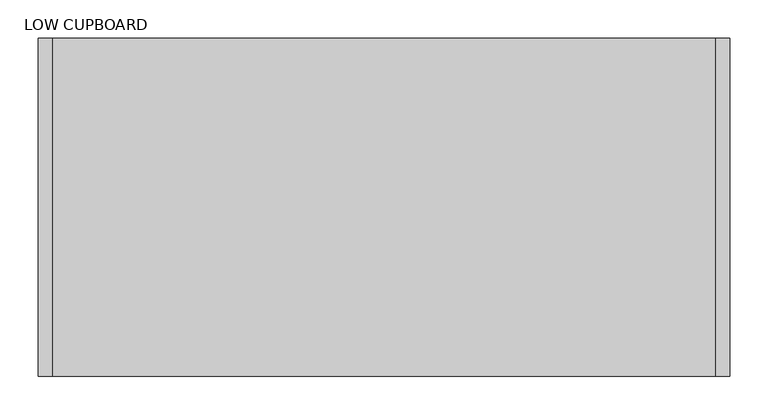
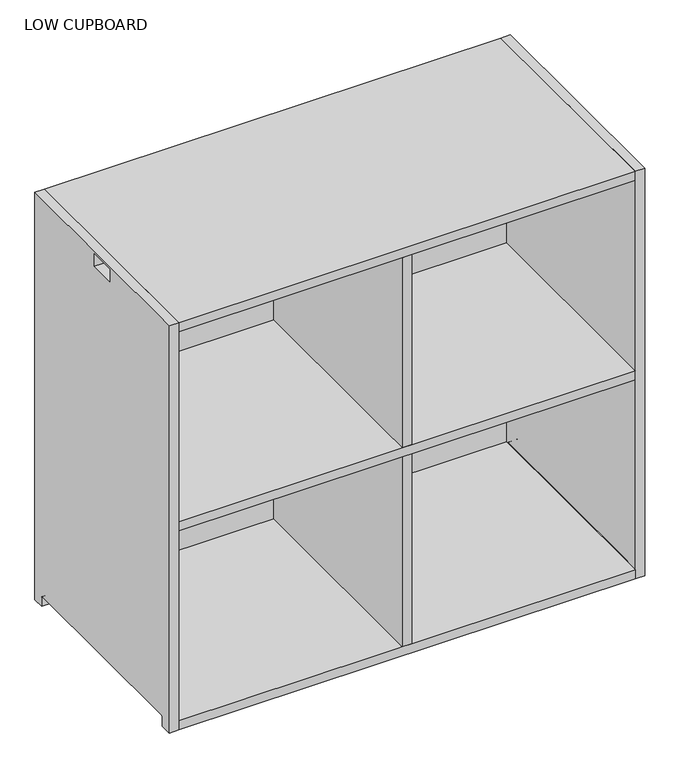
"""IFC4 building model written with IfcOpenShell, lengths in millimetres: furniture geometry, LOW CUPBOARD : 900mmW_SHELVES & DIVIDER."""

from ifc_helpers import new_model, si_unit, point, frame, frame_2d, origin, place, context, project, spatial, polyline, circle_curve, trimmed, segment, composite_curve, outline, extrude, source, transform, mapped, element, save
from ifc_brep_helpers import plane_surface, revolved_surface, advanced_brep


def low_cupboard_ac567b99(model_context):
    return source(origin(), model_context, "Body", "SolidModel", [
        extrude(outline(composite_curve([segment(polyline([(-220.0, 815.0), (220.0, 815.0), (220.0, 0.0), (198.0, 0.0), (198.0, 17.0)]), True, "CONTINUOUS"), segment(trimmed(circle_curve(frame_2d((194.0, 17.0)), 4.0), [point((198.0, 17.0))], [point((194.0, 21.0))], True, "CARTESIAN"), True, "CONTINUOUS"), segment(polyline([(194.0, 21.0), (-194.0, 21.0)]), True, "CONTINUOUS"), segment(trimmed(circle_curve(frame_2d((-194.0, 17.0)), 4.0), [point((-194.0, 21.0))], [point((-198.0, 17.0))], True, "CARTESIAN"), True, "CONTINUOUS"), segment(polyline([(-198.0, 17.0), (-198.0, 0.0), (-220.0, 0.0), (-220.0, 815.0)]), True, "CONTINUOUS")], self_intersect=False), holes=[polyline([(-26.0, 810.0), (-26.0, 785.0), (26.0, 785.0), (26.0, 810.0), (-26.0, 810.0)])]), frame((-450.0, 0.0, 0.0), z_axis=(1.0, 0.0, 0.0), x_axis=(0.0, 1.0, 0.0)), (0.0, 0.0, 1.0), 18.0),
        advanced_brep(
        [(432.0, 220.0, 18.0), (-432.0, 220.0, 18.0), (-432.0, 197.8729833, 18.0), (-426.1019215, 197.8729833, 18.0), (-426.1019215, -197.8729833, 18.0), (-432.0, -197.8729833, 18.0), (-432.0, -220.0, 18.0), (432.0, -220.0, 18.0), (432.0, 220.0, 0.0), (432.0, -220.0, 0.0), (-432.0, -220.0, 0.0), (-432.0, -198.0, 0.0), (-426.1019215, -198.0, 0.0), (-426.1019215, 198.0, 0.0), (-432.0, 198.0, 0.0), (-432.0, 220.0, 0.0), (-432.0, 198.0, 17.0), (-432.0, -198.0, 17.0), (-426.1019215, 198.0, 17.0), (-426.1019215, -198.0, 17.0)],
        [
            (0, 1),
            (1, 2),
            (2, 3),
            (3, 4),
            (4, 5),
            (5, 6),
            (6, 7),
            (7, 0),
            (8, 9),
            (9, 10),
            (10, 11),
            (11, 12),
            (12, 13),
            (13, 14),
            (14, 15),
            (15, 8),
            (0, 8),
            (15, 1),
            (14, 16),
            (16, 2, circle_curve(frame((-432.0, 194.0, 17.0), z_axis=(1.0, 0.0, 0.0), x_axis=(0.0, 1.0, 0.0)), 4.0)),
            (10, 6),
            (5, 17, circle_curve(frame((-432.0, -194.0, 17.0), z_axis=(1.0, 0.0, 0.0), x_axis=(0.0, 1.0, 0.0)), 4.0)),
            (17, 11),
            (9, 7),
            (18, 13),
            (12, 19),
            (19, 4, circle_curve(frame((-426.1019215, -194.0, 17.0), z_axis=(-1.0, 0.0, 0.0), x_axis=(0.0, 1.0, 0.0)), 4.0)),
            (3, 18, circle_curve(frame((-426.1019215, 194.0, 17.0), z_axis=(-1.0, 0.0, 0.0), x_axis=(0.0, 1.0, 0.0)), 4.0)),
            (19, 17),
            (18, 16),
        ],
        [
            plane_surface(frame((-432.0, 220.0, 18.0), z_axis=(0.0, 0.0, 1.0), x_axis=(-1.0, 0.0, 0.0))),
            plane_surface(frame((-432.0, 220.0, 0.0), z_axis=(0.0, 0.0, -1.0), x_axis=(1.0, 0.0, 0.0))),
            plane_surface(frame((432.0, 220.0, 18.0), z_axis=(0.0, 1.0, 0.0), x_axis=(0.0, 0.0, -1.0))),
            plane_surface(frame((-432.0, 220.0, 18.0), z_axis=(-1.0, 0.0, 0.0), x_axis=(0.0, 0.0, -1.0))),
            plane_surface(frame((-432.0, -220.0, 18.0), z_axis=(0.0, -1.0, 0.0), x_axis=(0.0, 0.0, -1.0))),
            plane_surface(frame((432.0, -220.0, 18.0), z_axis=(1.0, 0.0, 0.0), x_axis=(0.0, 0.0, -1.0))),
            plane_surface(frame((-426.1019215, -190.0, 17.0), z_axis=(-1.0, 0.0, 0.0), x_axis=(0.0, 0.0, 1.0))),
            revolved_surface(polyline([(-426.1019215, -190.0, 17.0), (-432.0, -190.0, 17.0)]), (-456.0458228, -194.0, 17.0), (1.0, 0.0, 0.0)),
            plane_surface(frame((-426.1019215, -198.0, 17.0), z_axis=(0.0, 1.0, 0.0), x_axis=(-1.0, 0.0, 0.0))),
            plane_surface(frame((-426.1019215, 198.0, 0.0), z_axis=(0.0, -1.0, 0.0), x_axis=(-1.0, 0.0, 0.0))),
            revolved_surface(polyline([(-426.1019215, 198.0, 17.0), (-432.0, 198.0, 17.0)]), (-456.0458228, 194.0, 17.0), (1.0, 0.0, 0.0)),
        ],
        [
            (0, [[1, 2, 3, 4, 5, 6, 7, 8]]),
            (1, [[9, 10, 11, 12, 13, 14, 15, 16]]),
            (2, [[-1, 17, -16, 18]]),
            (3, [[-18, -15, 19, 20, -2]]),
            (3, [[21, -6, 22, 23, -11]]),
            (4, [[-7, -21, -10, 24]]),
            (5, [[-8, -24, -9, -17]]),
            (6, [[25, -13, 26, 27, -4, 28]]),
            (7, [[-27, 29, -22, -5]]),
            (8, [[-26, -12, -23, -29]]),
            (9, [[-25, 30, -19, -14]]),
            (10, [[-28, -3, -20, -30]]),
        ],
    ),
        extrude(outline(composite_curve([segment(polyline([(-220.0, 815.0), (220.0, 815.0), (220.0, 0.0), (198.0, 0.0), (198.0, 17.0)]), True, "CONTINUOUS"), segment(trimmed(circle_curve(frame_2d((194.0, 17.0)), 4.0), [point((198.0, 17.0))], [point((194.0, 21.0))], True, "CARTESIAN"), True, "CONTINUOUS"), segment(polyline([(194.0, 21.0), (-194.0, 21.0)]), True, "CONTINUOUS"), segment(trimmed(circle_curve(frame_2d((-194.0, 17.0)), 4.0), [point((-194.0, 21.0))], [point((-198.0, 17.0))], True, "CARTESIAN"), True, "CONTINUOUS"), segment(polyline([(-198.0, 17.0), (-198.0, 0.0), (-220.0, 0.0), (-220.0, 815.0)]), True, "CONTINUOUS")], self_intersect=False), holes=[polyline([(-26.0, 810.0), (-26.0, 785.0), (26.0, 785.0), (26.0, 810.0), (-26.0, 810.0)])]), frame((432.0, 0.0, 0.0), z_axis=(1.0, 0.0, 0.0), x_axis=(0.0, 1.0, 0.0)), (0.0, 0.0, 1.0), 18.0),
        extrude(outline(polyline([(432.0, 220.0), (432.0, 202.0), (-432.0, 202.0), (-432.0, 220.0), (432.0, 220.0)])), frame((0.0, 0.0, 18.0), z_axis=(0.0, 0.0, 1.0), x_axis=(1.0, 0.0, 0.0)), (0.0, 0.0, 1.0), 779.0),
        extrude(outline(polyline([(432.0, 202.0), (432.0, -220.0), (-432.0, -220.0), (-432.0, 202.0), (432.0, 202.0)])), frame((0.0, 0.0, 398.5), z_axis=(0.0, 0.0, 1.0), x_axis=(1.0, 0.0, 0.0)), (0.0, 0.0, 1.0), 18.0),
        extrude(outline(polyline([(432.0, 220.0), (432.0, -220.0), (-432.0, -220.0), (-432.0, 220.0), (432.0, 220.0)])), frame((0.0, 0.0, 797.0), z_axis=(0.0, 0.0, 1.0), x_axis=(1.0, 0.0, 0.0)), (0.0, 0.0, 1.0), 18.0),
        extrude(outline(polyline([(9.0, 202.0), (9.0, -220.0), (-9.0, -220.0), (-9.0, 202.0), (9.0, 202.0)])), frame((0.0, 0.0, 18.0), z_axis=(0.0, 0.0, 1.0), x_axis=(1.0, 0.0, 0.0)), (0.0, 0.0, 1.0), 779.0),
    ])


if __name__ == "__main__":
    model = new_model("IFC4")
    model_context = context("Model", 3, world=origin())
    ifc_project = project(units=[si_unit("LENGTHUNIT", "METRE", prefix="MILLI")], contexts=[model_context])
    site = spatial("IfcSite", under=ifc_project)
    building = spatial("IfcBuilding", under=site)
    placement = place(None, origin())
    low_cupboard_shape = low_cupboard_ac567b99(model_context)
    element("IfcFurniture", 1, ObjectType="LOW CUPBOARD : 900mmW_SHELVES & DIVIDER", at=placement, inside=building, context=model_context, shape_type="MappedRepresentation", body=[
        mapped(low_cupboard_shape, transform((0.0, 0.0, 0.0), x_axis=(1.0, 0.0, 0.0), y_axis=(0.0, 1.0, 0.0), z_axis=(0.0, 0.0, 1.0))),
    ])
    save(model, "model.ifc")
